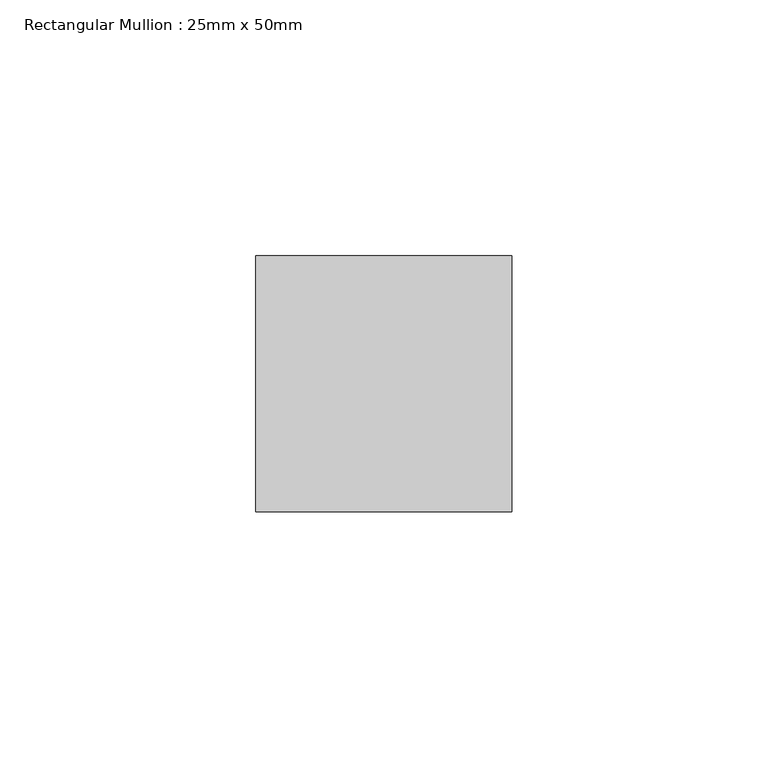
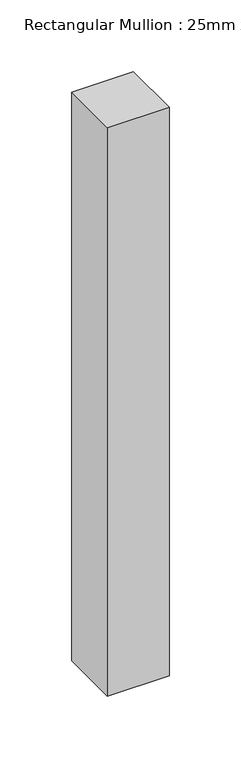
"""IFC4 building model written with IfcOpenShell, lengths in millimetres: member geometry, Rectangular Mullion : 25mm x 50mm."""

from ifc_helpers import new_model, si_unit, frame, origin, place, context, project, spatial, polyline, outline, extrude, source, transform, mapped, element, save


def rectangular_mullion_25mm_x_50mm_b860c0e0(model_context):
    return source(origin(), model_context, "Body", "SweptSolid", [
        extrude(outline(polyline([(25.0, 25.0), (25.0, -25.0), (-25.0, -25.0), (-25.0, 25.0), (25.0, 25.0)])), frame((0.0, 0.0, -485.5662433), z_axis=(0.0, 0.0, 1.0), x_axis=(1.0, 0.0, 0.0)), (0.0, 0.0, 1.0), 485.5662433),
    ])


if __name__ == "__main__":
    model = new_model("IFC4")
    model_context = context("Model", 3, world=origin())
    ifc_project = project(units=[si_unit("LENGTHUNIT", "METRE", prefix="MILLI")], contexts=[model_context])
    site = spatial("IfcSite", under=ifc_project)
    building = spatial("IfcBuilding", under=site)
    placement = place(None, origin())
    rectangular_mullion_25mm_x_50mm_shape = rectangular_mullion_25mm_x_50mm_b860c0e0(model_context)
    element("IfcMember", 1, ObjectType="Rectangular Mullion : 25mm x 50mm", at=placement, inside=building, context=model_context, shape_type="MappedRepresentation", body=[
        mapped(rectangular_mullion_25mm_x_50mm_shape, transform((0.0, 0.0, 0.0), x_axis=(1.0, 0.0, 0.0), y_axis=(0.0, 1.0, 0.0), z_axis=(0.0, 0.0, 1.0))),
    ])
    save(model, "model.ifc")
